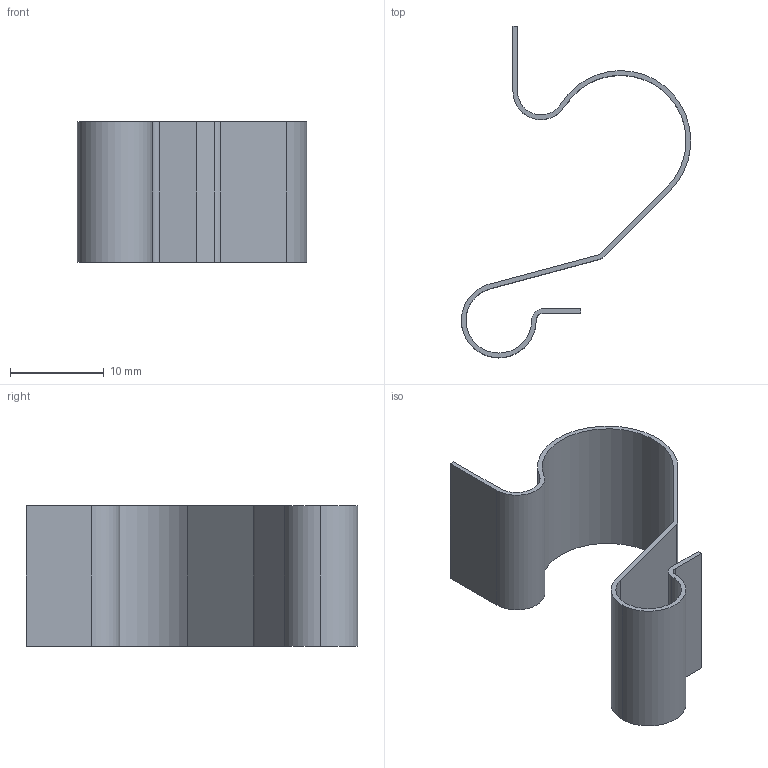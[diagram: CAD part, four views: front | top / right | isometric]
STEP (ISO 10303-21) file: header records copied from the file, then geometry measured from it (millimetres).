
FILE_DESCRIPTION (( 'STEP AP214' ), '1' );
FILE_NAME ('CLIPS UF.step', '2017-04-05T07:53:35', ( '' ), ( '' ), 'SwSTEP 2.0', 'SolidWorks 2015', '' );
FILE_SCHEMA (( 'AUTOMOTIVE_DESIGN' ));
Length unit declared in the file: millimetre
Products named in the file (1): CLIPS UF
Bounding box: 24.5 x 35.45 x 15 mm (x, y, z)
Volume: 625.1 mm3; surface area: 2598.7 mm2
Topology: 1 solids, 1 shells, 24 faces, 66 edges, 44 vertices
Faces by surface type: cylinder 12, plane 12
Entity records: 808 total; most frequent: DIRECTION 140, CARTESIAN_POINT 135, ORIENTED_EDGE 132, EDGE_CURVE 66, AXIS2_PLACEMENT_3D 49, VERTEX_POINT 44, VECTOR 42, LINE 42
